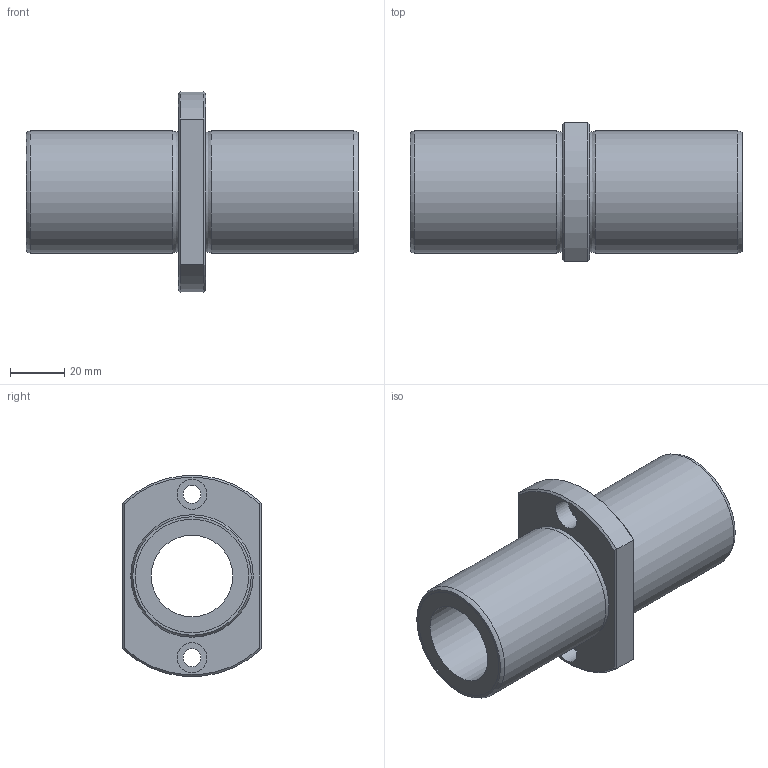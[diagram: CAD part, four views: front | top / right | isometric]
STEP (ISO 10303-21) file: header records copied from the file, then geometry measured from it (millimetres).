
FILE_DESCRIPTION((''),'2;1');
FILE_NAME('D:\製品 (図面)\カタログ用3D\リニアベアリング関連\STEP形式\LFDTC\LFDTC30.stp','2010-06-04T08:41:53',('Tsuchiya'),(''),'Autodesk Inventor 10','Autodesk Inventor 10','');
FILE_SCHEMA(('AUTOMOTIVE_DESIGN { 1 0 10303 214 1 1 1 1 }'));
Length unit declared in the file: millimetre
Products named in the file (1): LFDTC30
Bounding box: 122 x 51 x 73.74 mm (x, y, z)
Volume: 124320.6 mm3; surface area: 35269 mm2
Topology: 1 solids, 1 shells, 33 faces, 63 edges, 38 vertices
Faces by surface type: plane 14, cylinder 11, cone 4, torus 2, bspline 2
Full cylindrical faces by diameter (mm): 6.6 x2, 11 x2, 30 x1, 41.7 x2, 45 x2
Entity records: 925 total; most frequent: CARTESIAN_POINT 270, DIRECTION 136, ORIENTED_EDGE 100, AXIS2_PLACEMENT_3D 62, EDGE_LOOP 58, EDGE_CURVE 50, VERTEX_POINT 38, FACE_OUTER_BOUND 33
